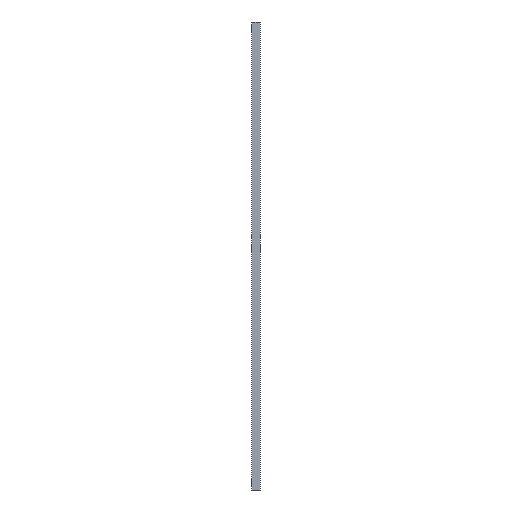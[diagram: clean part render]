
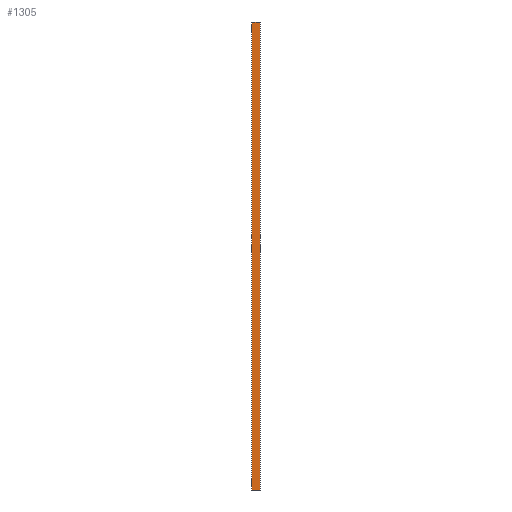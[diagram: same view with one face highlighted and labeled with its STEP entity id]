
A CAD part, left-side view. The second image highlights one B-rep face of the part: STEP entity #1305.
In plain terms, the highlighted planar face has unit normal (-1, 0, 0).
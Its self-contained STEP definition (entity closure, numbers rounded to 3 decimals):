
#2 = LINE ( 'NONE', #974, #352 ) ;
#14 = VECTOR ( 'NONE', #1065, 1000. ) ;
#34 = EDGE_CURVE ( 'NONE', #162, #402, #2, .T. ) ;
#76 = CARTESIAN_POINT ( 'NONE',  ( -8., 3.2, 0. ) ) ;
#111 = DIRECTION ( 'NONE',  ( 0., 1., 0. ) ) ;
#162 = VERTEX_POINT ( 'NONE', #227 ) ;
#164 = CARTESIAN_POINT ( 'NONE',  ( -8., 3.2, 679. ) ) ;
#179 = VECTOR ( 'NONE', #431, 1000. ) ;
#192 = LINE ( 'NONE', #741, #991 ) ;
#202 = LINE ( 'NONE', #219, #1271 ) ;
#219 = CARTESIAN_POINT ( 'NONE',  ( -8., 12.5, 679. ) ) ;
#227 = CARTESIAN_POINT ( 'NONE',  ( -8., 9.3, 0. ) ) ;
#243 = DIRECTION ( 'NONE',  ( 0., 1., 0. ) ) ;
#250 = CARTESIAN_POINT ( 'NONE',  ( -8., 0., 679. ) ) ;
#287 = ORIENTED_EDGE ( 'NONE', *, *, #34, .F. ) ;
#330 = ORIENTED_EDGE ( 'NONE', *, *, #610, .T. ) ;
#352 = VECTOR ( 'NONE', #519, 1000. ) ;
#396 = DIRECTION ( 'NONE',  ( 0., 0., -1. ) ) ;
#402 = VERTEX_POINT ( 'NONE', #616 ) ;
#431 = DIRECTION ( 'NONE',  ( 0., -1., 0. ) ) ;
#519 = DIRECTION ( 'NONE',  ( 0., 1., 0. ) ) ;
#529 = LINE ( 'NONE', #624, #830 ) ;
#564 = EDGE_CURVE ( 'NONE', #768, #162, #1085, .T. ) ;
#610 = EDGE_CURVE ( 'NONE', #639, #653, #202, .T. ) ;
#616 = CARTESIAN_POINT ( 'NONE',  ( -8., 12.5, 0. ) ) ;
#624 = CARTESIAN_POINT ( 'NONE',  ( -8., 0., 679. ) ) ;
#629 = CARTESIAN_POINT ( 'NONE',  ( -8., 0., 0. ) ) ;
#634 = LINE ( 'NONE', #1303, #179 ) ;
#639 = VERTEX_POINT ( 'NONE', #1001 ) ;
#652 = LINE ( 'NONE', #250, #1204 ) ;
#653 = VERTEX_POINT ( 'NONE', #891 ) ;
#658 = EDGE_CURVE ( 'NONE', #1334, #639, #652, .T. ) ;
#672 = PLANE ( 'NONE',  #878 ) ;
#693 = ORIENTED_EDGE ( 'NONE', *, *, #1004, .T. ) ;
#721 = CARTESIAN_POINT ( 'NONE',  ( -8., 0., 679. ) ) ;
#722 = EDGE_LOOP ( 'NONE', ( #1332, #693, #822, #826, #1254, #330, #1413, #287 ) ) ;
#726 = LINE ( 'NONE', #1173, #1209 ) ;
#741 = CARTESIAN_POINT ( 'NONE',  ( -8., 12.5, 679. ) ) ;
#768 = VERTEX_POINT ( 'NONE', #76 ) ;
#822 = ORIENTED_EDGE ( 'NONE', *, *, #1408, .F. ) ;
#826 = ORIENTED_EDGE ( 'NONE', *, *, #1384, .F. ) ;
#830 = VECTOR ( 'NONE', #1059, 1000. ) ;
#878 = AXIS2_PLACEMENT_3D ( 'NONE', #1337, #898, #1020 ) ;
#888 = VERTEX_POINT ( 'NONE', #721 ) ;
#891 = CARTESIAN_POINT ( 'NONE',  ( -8., 12.5, 679. ) ) ;
#898 = DIRECTION ( 'NONE',  ( -1., 0., 0. ) ) ;
#974 = CARTESIAN_POINT ( 'NONE',  ( -8., 0., 0. ) ) ;
#991 = VECTOR ( 'NONE', #1190, 1000. ) ;
#1001 = CARTESIAN_POINT ( 'NONE',  ( -8., 9.3, 679. ) ) ;
#1004 = EDGE_CURVE ( 'NONE', #768, #1043, #634, .T. ) ;
#1020 = DIRECTION ( 'NONE',  ( 0., 0., 1. ) ) ;
#1043 = VERTEX_POINT ( 'NONE', #1195 ) ;
#1059 = DIRECTION ( 'NONE',  ( 0., -1., 0. ) ) ;
#1065 = DIRECTION ( 'NONE',  ( 0., 1., 0. ) ) ;
#1085 = LINE ( 'NONE', #629, #14 ) ;
#1173 = CARTESIAN_POINT ( 'NONE',  ( -8., 0., 679. ) ) ;
#1190 = DIRECTION ( 'NONE',  ( 0., 0., -1. ) ) ;
#1195 = CARTESIAN_POINT ( 'NONE',  ( -8., 0., 0. ) ) ;
#1204 = VECTOR ( 'NONE', #243, 1000. ) ;
#1209 = VECTOR ( 'NONE', #396, 1000. ) ;
#1238 = FACE_OUTER_BOUND ( 'NONE', #722, .T. ) ;
#1254 = ORIENTED_EDGE ( 'NONE', *, *, #658, .T. ) ;
#1271 = VECTOR ( 'NONE', #111, 1000. ) ;
#1303 = CARTESIAN_POINT ( 'NONE',  ( -8., 0., 0. ) ) ;
#1305 = ADVANCED_FACE ( 'NONE', ( #1238 ), #672, .T. ) ;
#1332 = ORIENTED_EDGE ( 'NONE', *, *, #564, .F. ) ;
#1334 = VERTEX_POINT ( 'NONE', #164 ) ;
#1337 = CARTESIAN_POINT ( 'NONE',  ( -8., 0., 679. ) ) ;
#1384 = EDGE_CURVE ( 'NONE', #1334, #888, #529, .T. ) ;
#1393 = EDGE_CURVE ( 'NONE', #653, #402, #192, .T. ) ;
#1408 = EDGE_CURVE ( 'NONE', #888, #1043, #726, .T. ) ;
#1413 = ORIENTED_EDGE ( 'NONE', *, *, #1393, .T. ) ;
